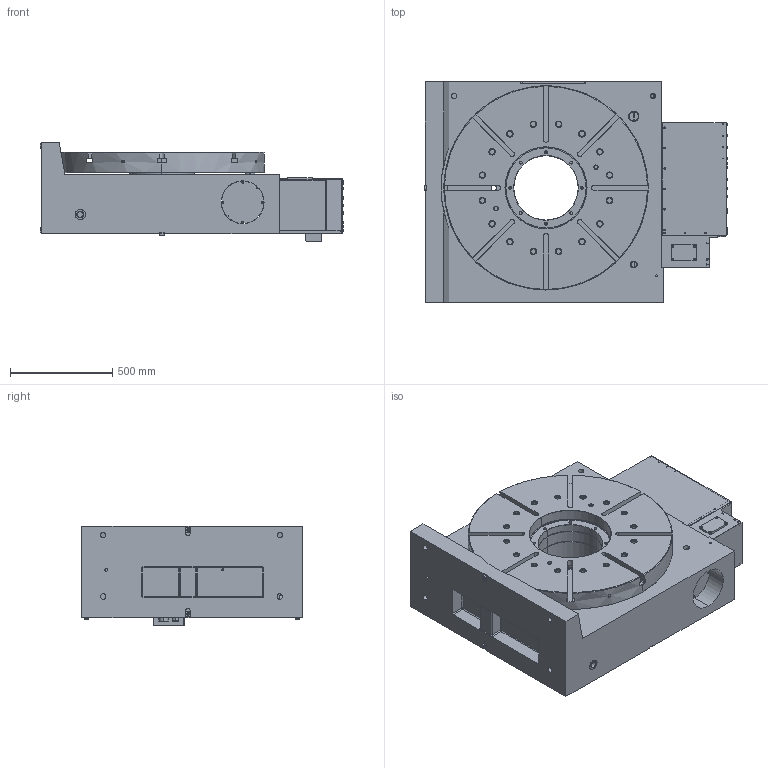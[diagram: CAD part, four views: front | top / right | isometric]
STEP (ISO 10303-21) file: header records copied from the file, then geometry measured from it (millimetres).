
FILE_DESCRIPTION (( 'STEP AP203' ), '1' );
FILE_NAME ('1539156-MDU1000R-04.STEP', '2020-12-05T05:26:20', ( '' ), ( '' ), 'SwSTEP 2.0', 'SolidWorks 2019', '' );
FILE_SCHEMA (( 'CONFIG_CONTROL_DESIGN' ));
Length unit declared in the file: millimetre
Products named in the file (1): 1539156-MDU1000R-04
Bounding box: 1488 x 1080 x 489.29 mm (x, y, z)
Surface area: 6426309.7 mm2 (no closed solid volume)
Topology: 0 solids, 108 shells, 1036 faces, 3473 edges, 2539 vertices
Faces by surface type: cylinder 533, plane 344, cone 147, sphere 8, torus 4
Entity records: 39539 total; most frequent: CARTESIAN_POINT 7741, DIRECTION 7297, ORIENTED_EDGE 5374, EDGE_CURVE 3465, AXIS2_PLACEMENT_3D 2843, VERTEX_POINT 2539, CIRCLE 1806, LINE 1611
